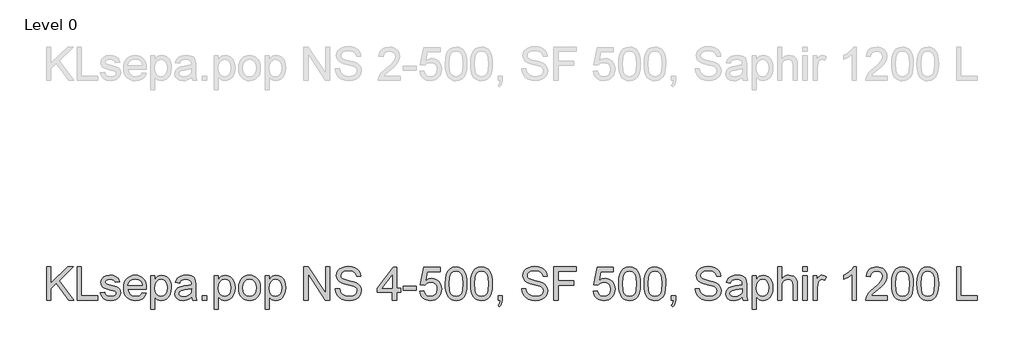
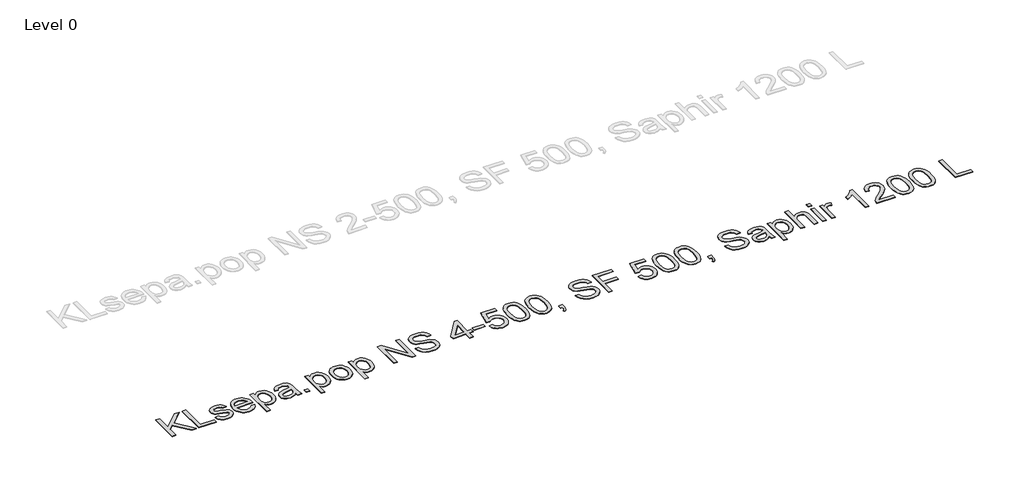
# One storey, part 9 of 15: 1 proxy.
"""IFC4 building model written with IfcOpenShell, lengths in millimetres."""

from ifc_helpers import new_model, si_unit, origin, origin_with_axes, place, context, project, spatial, polyline, outline, extrude, element, save

model = new_model("IFC4")

# Units and contexts
model_context = context("Model", 3, world=origin())
ifc_project = project(units=[si_unit("LENGTHUNIT", "METRE", prefix="MILLI")], contexts=[model_context])

# Site, building, storey
site = spatial("IfcSite", under=ifc_project)
building = spatial("IfcBuilding", under=site)
storey = spatial("IfcBuildingStorey", under=building, Name="Level 0", Elevation=0.0)

# Proxy
placement = place(None, origin())
element("IfcBuildingElementProxy", 1, Name="300mm Arial", ObjectType="300mm Arial", at=placement, inside=storey, context=model_context, shape_type="SweptSolid", body=[
    extrude(outline(polyline([(862.8420262, 199.0232018), (862.8420262, 500.3921323), (900.5131425, 500.3921323), (900.5131425, 352.8714522), (1055.0235805, 500.3921323), (1107.7042822, 500.3921323), (977.9890907, 376.4894763), (1112.4131718, 199.0232018), (1066.354346, 199.0232018), (951.2808579, 351.0320422), (900.5131425, 302.6187717), (900.5131425, 199.0232018), (862.8420262, 199.0232018)])), origin_with_axes(), (0.0, 0.0, 1.0), 5.0),
    extrude(outline(polyline([(1140.666509, 199.0232018), (1140.666509, 500.3921323), (1178.3376253, 500.3921323), (1178.3376253, 236.6943181), (1329.0220905, 236.6943181), (1329.0220905, 199.0232018), (1140.666509, 199.0232018)])), origin_with_axes(), (0.0, 0.0, 1.0), 5.0),
    extrude(outline(polyline([(1352.5665382, 264.9476554), (1390.2376545, 269.6565449), (1396.1789487, 253.5433135), (1407.6752611, 241.6975133), (1424.800168, 234.4134498), (1447.6272458, 231.9854286), (1470.1784121, 234.2111147), (1486.0341261, 240.8881729), (1495.4151169, 250.5634693), (1498.5421139, 261.7838702), (1495.3967228, 271.3855903), (1485.9605497, 278.706442), (1447.1857874, 289.4485962), (1390.4583837, 307.8794842), (1376.1017888, 317.1409134), (1365.6999254, 329.4005809), (1359.3815522, 343.8767374), (1357.2754277, 359.7876337), (1358.9676849, 374.3833519), (1364.0444565, 387.8570299), (1372.0458899, 399.675239), (1382.5121326, 409.3045503), (1406.4612505, 420.4513747), (1438.8716543, 425.0498997), (1463.3909893, 423.2012926), (1484.7097509, 417.6554716), (1501.8530519, 408.9550624), (1513.8460049, 397.642691), (1521.792256, 382.881426), (1526.7954511, 363.8343357), (1489.1243348, 359.1254461), (1484.36946, 370.9804434), (1474.960878, 379.9107789), (1460.8066182, 385.5117822), (1441.8147102, 387.3787834), (1420.1832489, 385.5945557), (1405.7622747, 380.2418726), (1397.6504767, 372.5163507), (1394.9465441, 363.6136065), (1399.4347044, 352.650723), (1413.4877966, 344.3365899), (1445.9349886, 336.3167624), (1501.2276525, 318.5848503), (1515.8325677, 310.1051703), (1526.9058157, 298.4984933), (1533.8863766, 283.7280312), (1536.2132302, 265.7569957), (1533.4817064, 247.178955), (1525.2871349, 229.7045602), (1511.9422156, 214.7041719), (1493.759648, 203.5481504), (1471.7970928, 196.6227718), (1447.112211, 194.3143123), (1409.128395, 198.7656844), (1381.4084866, 212.1198009), (1362.9040223, 234.2295088), (1352.5665382, 264.9476554)])), origin_with_axes(), (0.0, 0.0, 1.0), 5.0),
    extrude(outline(polyline([(1733.5451324, 264.9476554), (1770.4804847, 260.2387658), (1757.1723536, 232.4084929), (1735.9363654, 211.6047661), (1707.2507668, 198.6369257), (1671.5938044, 194.3143123), (1648.2195022, 196.1790141), (1627.3927827, 201.7731197), (1609.1136461, 211.0966291), (1593.3820923, 224.1495421), (1580.7315501, 240.5685754), (1571.6954486, 259.9904455), (1566.2737877, 282.4151523), (1564.4665674, 307.842696), (1566.2921818, 334.1324631), (1571.769025, 357.3044302), (1580.897097, 377.3585975), (1593.6763978, 394.2949649), (1609.3665649, 407.7502488), (1627.2272358, 417.361166), (1647.2584104, 423.1277162), (1669.4600889, 425.0498997), (1690.9466966, 423.1323148), (1710.3777638, 417.3795601), (1727.7532903, 407.7916356), (1743.0732761, 394.3685413), (1755.5789647, 377.4689621), (1764.5115994, 357.451583), (1769.8711802, 334.3164041), (1771.6577071, 308.0634252), (1771.4369779, 297.9098821), (1602.1376837, 297.9098821), (1608.6583921, 269.7117272), (1623.8059333, 248.9815768), (1645.6673208, 236.2344656), (1672.3295684, 231.9854286), (1692.3791372, 233.9535973), (1709.2649207, 239.8581033), (1722.9869192, 250.0668287), (1733.5451324, 264.9476554)]), holes=[polyline([(1602.1376837, 335.5809984), (1733.9865908, 335.5809984), (1728.8914252, 355.4834144), (1718.903429, 369.7204476), (1696.9408739, 382.9641994), (1669.3129361, 387.3787834), (1643.9198813, 383.8563132), (1622.9230165, 373.2889029), (1608.3272983, 356.8169866), (1602.1376837, 335.5809984)])]), origin_with_axes(), (0.0, 0.0, 1.0), 5.0),
    extrude(outline(polyline([(1809.3288234, 114.2631901), (1809.3288234, 420.3410101), (1846.9999397, 420.3410101), (1846.9999397, 383.4056578), (1859.2871984, 401.6250136), (1873.045985, 414.6388392), (1889.08564, 422.4471345), (1908.2155037, 425.0498997), (1933.6913319, 421.4078679), (1955.9665867, 410.4817726), (1974.1031691, 392.9338015), (1987.1629799, 369.426142), (1995.0540487, 341.6694455), (1997.6844049, 311.3743631), (1994.7137578, 279.1570974), (1985.8018165, 250.3427401), (1971.2336895, 226.3936223), (1951.2944854, 208.7720747), (1928.0719344, 197.9287529), (1903.653767, 194.3143123), (1886.3357221, 196.7331364), (1870.8754812, 203.9896088), (1857.6409264, 214.9432952), (1846.9999397, 228.4537614), (1846.9999397, 114.2631901), (1809.3288234, 114.2631901)]), holes=[polyline([(1846.9999397, 307.9162724), (1851.0742328, 274.1447052), (1863.2971121, 250.5266811), (1881.3325269, 236.6207417), (1902.8444266, 231.9854286), (1924.7058142, 236.7862886), (1943.2010815, 251.1888687), (1955.8102368, 275.6714155), (1960.0132886, 310.7121756), (1955.9114044, 344.2998017), (1943.6057517, 368.2489196), (1925.597928, 382.5963174), (1904.389531, 387.3787834), (1883.0983605, 382.2928148), (1864.4007581, 367.034909), (1851.3501443, 342.0833127), (1846.9999397, 307.9162724)])]), origin_with_axes(), (0.0, 0.0, 1.0), 5.0),
    extrude(outline(polyline([(2181.3310969, 227.2765391), (2163.3324703, 211.8438894), (2144.8004148, 201.7455286), (2125.3118661, 196.1721164), (2104.44376, 194.3143123), (2072.9622582, 198.7840785), (2049.7397073, 212.1933772), (2035.4199006, 232.5556457), (2030.6466317, 257.8843211), (2032.4492535, 273.5009117), (2037.8571188, 287.6827627), (2046.1988431, 299.8228685), (2056.8030416, 309.314224), (2083.1801806, 321.675059), (2115.7745254, 327.3404417), (2154.2917703, 333.3001301), (2181.1103677, 340.289888), (2181.3310969, 348.6775975), (2178.7375289, 365.4898046), (2170.9568247, 376.4894763), (2153.5560063, 384.6564566), (2129.3125828, 387.3787834), (2106.8717811, 385.5669645), (2091.2000081, 380.131508), (2080.5130362, 370.0791325), (2073.0266376, 354.4165566), (2035.3555213, 359.1254461), (2041.8946237, 379.7268379), (2051.6526936, 395.9136456), (2065.540239, 408.2928748), (2084.4677676, 417.4715306), (2107.6167422, 423.1553074), (2134.1686252, 425.0498997), (2159.6352563, 423.3760366), (2179.8227808, 418.3544473), (2195.0438983, 410.8036694), (2205.6113086, 401.5422402), (2212.6194606, 390.0919131), (2217.1628033, 375.9744415), (2219.0022132, 343.0122147), (2219.0022132, 296.1440485), (2220.9151996, 230.6978416), (2228.4199923, 199.0232018), (2190.748876, 199.0232018), (2181.3310969, 227.2765391)]), holes=[polyline([(2181.3310969, 302.6187717), (2120.5569913, 291.067277), (2088.1465876, 284.9604359), (2073.468096, 275.027622), (2068.317748, 260.5330714), (2071.1228482, 249.3310647), (2079.5381489, 240.1524089), (2093.3797089, 234.0271737), (2112.4635874, 231.9854286), (2132.6970972, 234.2387058), (2150.5761621, 240.9985375), (2165.0707128, 250.9589425), (2175.1506794, 262.8139398), (2179.6204457, 275.027622), (2181.1103677, 291.9501938), (2181.3310969, 302.6187717)])]), origin_with_axes(), (0.0, 0.0, 1.0), 5.0),
    extrude(outline(polyline([(2280.2177772, 199.0232018), (2280.2177772, 236.6943181), (2317.8888936, 236.6943181), (2317.8888936, 199.0232018), (2280.2177772, 199.0232018)])), origin_with_axes(), (0.0, 0.0, 1.0), 5.0),
    extrude(outline(polyline([(2388.5222366, 114.2631901), (2388.5222366, 420.3410101), (2426.1933529, 420.3410101), (2426.1933529, 383.4056578), (2438.4806116, 401.6250136), (2452.2393982, 414.6388392), (2468.2790532, 422.4471345), (2487.4089169, 425.0498997), (2512.8847451, 421.4078679), (2535.1599999, 410.4817726), (2553.2965823, 392.9338015), (2566.3563931, 369.426142), (2574.2474619, 341.6694455), (2576.8778182, 311.3743631), (2573.907171, 279.1570974), (2564.9952297, 250.3427401), (2550.4271027, 226.3936223), (2530.4878986, 208.7720747), (2507.2653476, 197.9287529), (2482.8471802, 194.3143123), (2465.5291353, 196.7331364), (2450.0688944, 203.9896088), (2436.8343396, 214.9432952), (2426.1933529, 228.4537614), (2426.1933529, 114.2631901), (2388.5222366, 114.2631901)]), holes=[polyline([(2426.1933529, 307.9162724), (2430.267646, 274.1447052), (2442.4905253, 250.5266811), (2460.5259401, 236.6207417), (2482.0378398, 231.9854286), (2503.8992274, 236.7862886), (2522.3944947, 251.1888687), (2535.0036501, 275.6714155), (2539.2067019, 310.7121756), (2535.1048176, 344.2998017), (2522.7991649, 368.2489196), (2504.7913412, 382.5963174), (2483.5829442, 387.3787834), (2462.2917737, 382.2928148), (2443.5941713, 367.034909), (2430.5435575, 342.0833127), (2426.1933529, 307.9162724)])]), origin_with_axes(), (0.0, 0.0, 1.0), 5.0),
    extrude(outline(polyline([(2609.8400449, 309.682106), (2611.8771915, 338.3447119), (2617.9886311, 363.0433894), (2628.1743639, 383.7781383), (2642.4343897, 400.5489588), (2656.7909846, 411.2681204), (2672.6375015, 418.9246644), (2689.9739405, 423.5185909), (2708.8003016, 425.0498997), (2729.5833351, 423.1851978), (2748.3752073, 417.5910922), (2765.1759181, 408.2675829), (2779.9854677, 395.2146698), (2792.0726905, 378.8738115), (2800.7064211, 359.6864662), (2805.8866594, 337.6526339), (2807.6134055, 312.7723147), (2804.559985, 274.7149223), (2795.3997233, 245.7442152), (2780.3993349, 224.0483745), (2759.8255344, 207.8155815), (2735.3889728, 197.6896296), (2708.8003016, 194.3143123), (2687.7137655, 196.1721164), (2668.7471494, 201.7455286), (2651.9004533, 211.034549), (2637.1736772, 224.0391775), (2625.2152131, 240.538685), (2616.673453, 260.3123422), (2611.5483969, 283.3601492), (2609.8400449, 309.682106)]), holes=[polyline([(2647.5111612, 309.7556824), (2651.8705629, 275.6622185), (2664.9487678, 251.3728097), (2684.6304545, 236.8322739), (2708.8003016, 231.9854286), (2732.8597841, 236.859865), (2752.5046827, 251.4831743), (2765.5828876, 276.0944798), (2769.9422892, 310.9329048), (2765.5552964, 344.0330873), (2752.3943181, 367.9914022), (2732.7218284, 382.5319381), (2708.8003016, 387.3787834), (2684.6304545, 382.5503322), (2664.9487678, 368.0649786), (2651.8705629, 343.8307522), (2647.5111612, 309.7556824)])]), origin_with_axes(), (0.0, 0.0, 1.0), 5.0),
    extrude(outline(polyline([(2849.9934114, 114.2631901), (2849.9934114, 420.3410101), (2887.6645277, 420.3410101), (2887.6645277, 383.4056578), (2899.9517863, 401.6250136), (2913.7105729, 414.6388392), (2929.7502279, 422.4471345), (2948.8800917, 425.0498997), (2974.3559198, 421.4078679), (2996.6311747, 410.4817726), (3014.767757, 392.9338015), (3027.8275678, 369.426142), (3035.7186366, 341.6694455), (3038.3489929, 311.3743631), (3035.3783458, 279.1570974), (3026.4664045, 250.3427401), (3011.8982775, 226.3936223), (2991.9590733, 208.7720747), (2968.7365224, 197.9287529), (2944.3183549, 194.3143123), (2927.00031, 196.7331364), (2911.5400692, 203.9896088), (2898.3055144, 214.9432952), (2887.6645277, 228.4537614), (2887.6645277, 114.2631901), (2849.9934114, 114.2631901)]), holes=[polyline([(2887.6645277, 307.9162724), (2891.7388208, 274.1447052), (2903.9617001, 250.5266811), (2921.9971149, 236.6207417), (2943.5090145, 231.9854286), (2965.3704021, 236.7862886), (2983.8656694, 251.1888687), (2996.4748248, 275.6714155), (3000.6778766, 310.7121756), (2996.5759924, 344.2998017), (2984.2703396, 368.2489196), (2966.262516, 382.5963174), (2945.0541189, 387.3787834), (2923.7629485, 382.2928148), (2905.0653461, 367.034909), (2892.0147323, 342.0833127), (2887.6645277, 307.9162724)])]), origin_with_axes(), (0.0, 0.0, 1.0), 5.0),
    extrude(outline(polyline([(3203.1601267, 199.0232018), (3203.1601267, 500.3921323), (3243.4799934, 500.3921323), (3400.9334874, 261.6367174), (3400.9334874, 500.3921323), (3438.6046037, 500.3921323), (3438.6046037, 199.0232018), (3398.284737, 199.0232018), (3240.8312431, 437.8521931), (3240.8312431, 199.0232018), (3203.1601267, 199.0232018)])), origin_with_axes(), (0.0, 0.0, 1.0), 5.0),
    extrude(outline(polyline([(3490.4023886, 302.6187717), (3528.0735049, 302.6187717), (3532.3961183, 281.7138773), (3540.2136107, 264.9108672), (3552.4088989, 251.5751448), (3569.8648995, 241.0721139), (3591.2020553, 234.2570999), (3615.0408085, 231.9854286), (3636.0284764, 233.7052769), (3654.404182, 238.8648219), (3669.2942058, 247.0318022), (3679.8248279, 257.7739565), (3686.0880189, 270.1072003), (3688.1757492, 283.0474495), (3686.6122507, 295.6566049), (3681.9217553, 306.555109), (3672.3936116, 315.8533264), (3656.3171684, 323.6616218), (3601.4659629, 338.0458078), (3565.4595126, 347.5647544), (3542.4209027, 356.6238486), (3523.668118, 369.2973833), (3510.3783809, 384.6564566), (3502.459721, 402.3699747), (3499.8201677, 422.1068437), (3503.0851204, 444.1705664), (3512.8799785, 464.7443669), (3528.9472246, 482.1819735), (3551.0293414, 494.8371141), (3577.5352391, 502.5350449), (3606.8738283, 505.1010218), (3638.6588326, 502.4154832), (3666.4707115, 494.3588675), (3689.3161834, 481.0967216), (3706.2019669, 462.7945924), (3716.8889389, 440.592914), (3721.137976, 415.6321206), (3683.4668596, 415.6321206), (3676.5506781, 438.1097105), (3662.1297039, 454.3333065), (3639.5969317, 464.1557557), (3608.3453562, 467.4299055), (3576.3580168, 464.1925439), (3554.4138557, 454.4804593), (3541.7219269, 440.1882438), (3537.491284, 423.2104897), (3540.4895222, 408.7343332), (3549.484237, 397.090868), (3570.7478163, 386.6798076), (3610.9941066, 376.0480179), (3652.5279839, 365.9496571), (3677.6543241, 357.1388833), (3699.1294356, 343.4720672), (3714.1114298, 326.6046777), (3722.9130066, 306.7206559), (3725.8468655, 284.0039427), (3722.4715482, 260.7813918), (3712.3455963, 238.9383983), (3695.882877, 220.1396283), (3673.4972576, 206.0497479), (3646.5774926, 197.2481712), (3616.5123365, 194.3143123), (3579.6045754, 197.4780974), (3549.2267196, 206.9694529), (3525.0292814, 222.8251669), (3506.6627728, 245.0820276), (3494.8721548, 272.1949307), (3490.4023886, 302.6187717)])), origin_with_axes(), (0.0, 0.0, 1.0), 5.0),
    extrude(outline(polyline([(4008.3802378, 199.0232018), (4008.3802378, 269.6565449), (3871.8224412, 269.6565449), (3871.8224412, 307.3276612), (4017.7980169, 495.6832427), (4046.0513541, 495.6832427), (4046.0513541, 307.3276612), (4083.7224704, 307.3276612), (4083.7224704, 269.6565449), (4046.0513541, 269.6565449), (4046.0513541, 199.0232018), (4008.3802378, 199.0232018)]), holes=[polyline([(4008.3802378, 307.3276612), (4008.3802378, 423.7255245), (3918.1755726, 307.3276612), (4008.3802378, 307.3276612)])]), origin_with_axes(), (0.0, 0.0, 1.0), 5.0),
    extrude(outline(polyline([(4107.2669181, 288.492103), (4107.2669181, 326.1632194), (4224.9891565, 326.1632194), (4224.9891565, 288.492103), (4107.2669181, 288.492103)])), origin_with_axes(), (0.0, 0.0, 1.0), 5.0),
    extrude(outline(polyline([(4257.9513833, 279.074324), (4295.6224996, 283.7832135), (4302.5386811, 261.1676679), (4314.6052106, 244.971663), (4331.7669056, 235.2319872), (4353.9685841, 231.9854286), (4380.9711225, 236.5011801), (4401.2046322, 250.0484346), (4413.8413788, 271.0636935), (4418.0536276, 297.9834585), (4414.1080932, 323.330528), (4402.27149, 342.7179091), (4382.4518475, 355.0235619), (4354.5571952, 359.1254461), (4336.2826571, 357.4883712), (4321.4846039, 352.5771466), (4300.3313892, 335.5809984), (4262.6602729, 340.289888), (4295.6224996, 495.6832427), (4441.5980753, 495.6832427), (4441.5980753, 458.0121264), (4326.0831288, 458.0121264), (4309.9698974, 375.0179483), (4336.8804654, 391.3519089), (4365.0786203, 396.7965624), (4383.4244356, 395.1089038), (4400.2757302, 390.0459278), (4415.6325042, 381.6076346), (4429.4947577, 369.794024), (4440.9703767, 355.3270645), (4449.1672474, 338.9287246), (4454.0853698, 320.5990042), (4455.7247439, 300.3379033), (4449.8202379, 262.666787), (4442.4396054, 245.8729739), (4432.1067198, 230.4403242), (4416.4533409, 214.635194), (4398.1879999, 203.3458153), (4377.3106967, 196.572188), (4353.8214313, 194.3143123), (4316.8216996, 200.1176508), (4301.1430288, 207.3718238), (4287.3451547, 217.5276662), (4275.8649372, 230.07934), (4267.1392361, 244.5210076), (4257.9513833, 279.074324)])), origin_with_axes(), (0.0, 0.0, 1.0), 5.0),
    extrude(outline(polyline([(4488.6869707, 347.2796459), (4491.4552827, 395.5181725), (4499.7602187, 433.9894321), (4513.5190054, 463.282036), (4532.6488691, 483.9845953), (4557.2877657, 496.290248), (4587.573651, 500.3921323), (4610.7870049, 497.9641111), (4631.5723376, 490.6800476), (4648.9547619, 478.8250503), (4661.9593904, 462.6842278), (4671.7818397, 442.3955357), (4679.6177262, 418.0969299), (4684.74968, 387.2408276), (4686.4603313, 347.2796459), (4683.7196104, 299.3170308), (4675.4974478, 260.9377416), (4661.8214347, 231.6175466), (4642.7191621, 210.8322139), (4618.0250831, 198.4437877), (4587.573651, 194.3143123), (4566.8251065, 196.107737), (4548.4310067, 201.4880112), (4532.3913517, 210.4551348), (4518.7061415, 223.0091079), (4505.5727543, 245.7028285), (4496.1917634, 273.9791583), (4490.5631689, 307.8380975), (4488.6869707, 347.2796459)]), holes=[polyline([(4526.358087, 347.3532223), (4530.7726709, 288.0966299), (4536.2909009, 267.8286312), (4544.0164228, 253.8008309), (4563.7348977, 237.4392792), (4587.573651, 231.9854286), (4611.4124043, 237.4576733), (4631.1308792, 253.8744073), (4638.8564011, 267.9252003), (4644.374631, 288.1886004), (4648.789215, 347.3532223), (4644.5217838, 405.2762424), (4639.1874949, 425.4775625), (4631.7194904, 439.8387559), (4612.0378037, 457.0004509), (4587.1321926, 462.721016), (4563.5509567, 457.6810326), (4544.605034, 442.5610826), (4536.6219947, 426.9260978), (4530.9198237, 405.8464595), (4526.358087, 347.3532223)])]), origin_with_axes(), (0.0, 0.0, 1.0), 5.0),
    extrude(outline(polyline([(4719.4225581, 347.2796459), (4722.1908701, 395.5181725), (4730.4958061, 433.9894321), (4744.2545927, 463.282036), (4763.3844565, 483.9845953), (4788.0233531, 496.290248), (4818.3092384, 500.3921323), (4841.5225923, 497.9641111), (4862.307925, 490.6800476), (4879.6903493, 478.8250503), (4892.6949778, 462.6842278), (4902.5174271, 442.3955357), (4910.3533136, 418.0969299), (4915.4852674, 387.2408276), (4917.1959187, 347.2796459), (4914.4551978, 299.3170308), (4906.2330352, 260.9377416), (4892.557022, 231.6175466), (4873.4547494, 210.8322139), (4848.7606705, 198.4437877), (4818.3092384, 194.3143123), (4797.5606938, 196.107737), (4779.1665941, 201.4880112), (4763.1269391, 210.4551348), (4749.4417289, 223.0091079), (4736.3083416, 245.7028285), (4726.9273508, 273.9791583), (4721.2987562, 307.8380975), (4719.4225581, 347.2796459)]), holes=[polyline([(4757.0936744, 347.3532223), (4761.5082583, 288.0966299), (4767.0264882, 267.8286312), (4774.7520101, 253.8008309), (4794.4704851, 237.4392792), (4818.3092384, 231.9854286), (4842.1479917, 237.4576733), (4861.8664666, 253.8744073), (4869.5919885, 267.9252003), (4875.1102184, 288.1886004), (4879.5248024, 347.3532223), (4875.2573712, 405.2762424), (4869.9230823, 425.4775625), (4862.4550778, 439.8387559), (4842.773391, 457.0004509), (4817.86778, 462.721016), (4794.2865441, 457.6810326), (4775.3406213, 442.5610826), (4767.357582, 426.9260978), (4761.6554111, 405.8464595), (4757.0936744, 347.3532223)])]), origin_with_axes(), (0.0, 0.0, 1.0), 5.0),
    extrude(outline(polyline([(4968.9937036, 199.0232018), (4968.9937036, 236.6943181), (5006.6648199, 236.6943181), (5006.6648199, 199.0232018), (5004.9725627, 177.474514), (4999.8957912, 160.5059569), (4991.1401997, 147.4921313), (4978.4114827, 137.8076378), (4968.9937036, 151.9343064), (4977.1606839, 158.7585174), (4982.8260666, 168.1946906), (4987.7556853, 199.0232018), (4968.9937036, 199.0232018)])), origin_with_axes(), (0.0, 0.0, 1.0), 5.0),
    extrude(outline(polyline([(5185.6026224, 302.6187717), (5223.2737387, 302.6187717), (5227.5963521, 281.7138773), (5235.4138445, 264.9108672), (5247.6091326, 251.5751448), (5265.0651333, 241.0721139), (5286.402289, 234.2570999), (5310.2410423, 231.9854286), (5331.2287101, 233.7052769), (5349.6044158, 238.8648219), (5364.4944396, 247.0318022), (5375.0250617, 257.7739565), (5381.2882526, 270.1072003), (5383.375983, 283.0474495), (5381.8124845, 295.6566049), (5377.121989, 306.555109), (5367.5938454, 315.8533264), (5351.5174022, 323.6616218), (5296.6661967, 338.0458078), (5260.6597464, 347.5647544), (5237.6211365, 356.6238486), (5218.8683518, 369.2973833), (5205.5786147, 384.6564566), (5197.6599547, 402.3699747), (5195.0204014, 422.1068437), (5198.2853541, 444.1705664), (5208.0802123, 464.7443669), (5224.1474584, 482.1819735), (5246.2295752, 494.8371141), (5272.7354729, 502.5350449), (5302.074062, 505.1010218), (5333.8590664, 502.4154832), (5361.6709452, 494.3588675), (5384.5164171, 481.0967216), (5401.4022007, 462.7945924), (5412.0891727, 440.592914), (5416.3382097, 415.6321206), (5378.6670934, 415.6321206), (5371.7509119, 438.1097105), (5357.3299377, 454.3333065), (5334.7971655, 464.1557557), (5303.54559, 467.4299055), (5271.5582505, 464.1925439), (5249.6140895, 454.4804593), (5236.9221607, 440.1882438), (5232.6915177, 423.2104897), (5235.689756, 408.7343332), (5244.6844708, 397.090868), (5265.9480501, 386.6798076), (5306.1943404, 376.0480179), (5347.7282176, 365.9496571), (5372.8545579, 357.1388833), (5394.3296694, 343.4720672), (5409.3116636, 326.6046777), (5418.1132404, 306.7206559), (5421.0470993, 284.0039427), (5417.671782, 260.7813918), (5407.54583, 238.9383983), (5391.0831108, 220.1396283), (5368.6974914, 206.0497479), (5341.7777264, 197.2481712), (5311.7125703, 194.3143123), (5274.8048091, 197.4780974), (5244.4269534, 206.9694529), (5220.2295151, 222.8251669), (5201.8630065, 245.0820276), (5190.0723886, 272.1949307), (5185.6026224, 302.6187717)])), origin_with_axes(), (0.0, 0.0, 1.0), 5.0),
    extrude(outline(polyline([(5477.5537737, 199.0232018), (5477.5537737, 500.3921323), (5680.0360239, 500.3921323), (5680.0360239, 462.721016), (5515.22489, 462.721016), (5515.22489, 373.2521147), (5656.4915762, 373.2521147), (5656.4915762, 335.5809984), (5515.22489, 335.5809984), (5515.22489, 199.0232018), (5477.5537737, 199.0232018)])), origin_with_axes(), (0.0, 0.0, 1.0), 5.0),
    extrude(outline(polyline([(5835.4293786, 279.074324), (5873.1004949, 283.7832135), (5880.0166764, 261.1676679), (5892.0832059, 244.971663), (5909.244901, 235.2319872), (5931.4465794, 231.9854286), (5958.4491178, 236.5011801), (5978.6826276, 250.0484346), (5991.3193741, 271.0636935), (5995.5316229, 297.9834585), (5991.5860885, 323.330528), (5979.7494853, 342.7179091), (5959.9298429, 355.0235619), (5932.0351906, 359.1254461), (5913.7606525, 357.4883712), (5898.9625992, 352.5771466), (5877.8093845, 335.5809984), (5840.1382682, 340.289888), (5873.1004949, 495.6832427), (6019.0760706, 495.6832427), (6019.0760706, 458.0121264), (5903.5611241, 458.0121264), (5887.4478928, 375.0179483), (5914.3584607, 391.3519089), (5942.5566156, 396.7965624), (5960.9024309, 395.1089038), (5977.7537255, 390.0459278), (5993.1104996, 381.6076346), (6006.972753, 369.794024), (6018.448372, 355.3270645), (6026.6452427, 338.9287246), (6031.5633651, 320.5990042), (6033.2027392, 300.3379033), (6027.2982332, 262.666787), (6019.9176007, 245.8729739), (6009.5847152, 230.4403242), (5993.9313363, 214.635194), (5975.6659952, 203.3458153), (5954.788692, 196.572188), (5931.2994266, 194.3143123), (5894.2996949, 200.1176508), (5878.6210241, 207.3718238), (5864.82315, 217.5276662), (5853.3429325, 230.07934), (5844.6172315, 244.5210076), (5835.4293786, 279.074324)])), origin_with_axes(), (0.0, 0.0, 1.0), 5.0),
    extrude(outline(polyline([(6066.164966, 347.2796459), (6068.933278, 395.5181725), (6077.2382141, 433.9894321), (6090.9970007, 463.282036), (6110.1268644, 483.9845953), (6134.7657611, 496.290248), (6165.0516463, 500.3921323), (6188.2650002, 497.9641111), (6209.0503329, 490.6800476), (6226.4327572, 478.8250503), (6239.4373857, 462.6842278), (6249.259835, 442.3955357), (6257.0957215, 418.0969299), (6262.2276753, 387.2408276), (6263.9383266, 347.2796459), (6261.1976058, 299.3170308), (6252.9754432, 260.9377416), (6239.29943, 231.6175466), (6220.1971574, 210.8322139), (6195.5030785, 198.4437877), (6165.0516463, 194.3143123), (6144.3031018, 196.107737), (6125.909002, 201.4880112), (6109.869347, 210.4551348), (6096.1841368, 223.0091079), (6083.0507496, 245.7028285), (6073.6697587, 273.9791583), (6068.0411642, 307.8380975), (6066.164966, 347.2796459)]), holes=[polyline([(6103.8360823, 347.3532223), (6108.2506663, 288.0966299), (6113.7688962, 267.8286312), (6121.4944181, 253.8008309), (6141.212893, 237.4392792), (6165.0516463, 231.9854286), (6188.8903996, 237.4576733), (6208.6088745, 253.8744073), (6216.3343964, 267.9252003), (6221.8526264, 288.1886004), (6226.2672103, 347.3532223), (6221.9997792, 405.2762424), (6216.6654902, 425.4775625), (6209.1974857, 439.8387559), (6189.515799, 457.0004509), (6164.6101879, 462.721016), (6141.028952, 457.6810326), (6122.0830293, 442.5610826), (6114.09999, 426.9260978), (6108.3978191, 405.8464595), (6103.8360823, 347.3532223)])]), origin_with_axes(), (0.0, 0.0, 1.0), 5.0),
    extrude(outline(polyline([(6296.9005534, 347.2796459), (6299.6688654, 395.5181725), (6307.9738014, 433.9894321), (6321.7325881, 463.282036), (6340.8624518, 483.9845953), (6365.5013484, 496.290248), (6395.7872337, 500.3921323), (6419.0005876, 497.9641111), (6439.7859203, 490.6800476), (6457.1683446, 478.8250503), (6470.1729731, 462.6842278), (6479.9954224, 442.3955357), (6487.8313089, 418.0969299), (6492.9632627, 387.2408276), (6494.673914, 347.2796459), (6491.9331931, 299.3170308), (6483.7110305, 260.9377416), (6470.0350174, 231.6175466), (6450.9327448, 210.8322139), (6426.2386658, 198.4437877), (6395.7872337, 194.3143123), (6375.0386892, 196.107737), (6356.6445894, 201.4880112), (6340.6049344, 210.4551348), (6326.9197242, 223.0091079), (6313.786337, 245.7028285), (6304.4053461, 273.9791583), (6298.7767516, 307.8380975), (6296.9005534, 347.2796459)]), holes=[polyline([(6334.5716697, 347.3532223), (6338.9862536, 288.0966299), (6344.5044836, 267.8286312), (6352.2300055, 253.8008309), (6371.9484804, 237.4392792), (6395.7872337, 231.9854286), (6419.625987, 237.4576733), (6439.3444619, 253.8744073), (6447.0699838, 267.9252003), (6452.5882137, 288.1886004), (6457.0027977, 347.3532223), (6452.7353665, 405.2762424), (6447.4010776, 425.4775625), (6439.9330731, 439.8387559), (6420.2513864, 457.0004509), (6395.3457753, 462.721016), (6371.7645394, 457.6810326), (6352.8186167, 442.5610826), (6344.8355774, 426.9260978), (6339.1334064, 405.8464595), (6334.5716697, 347.3532223)])]), origin_with_axes(), (0.0, 0.0, 1.0), 5.0),
    extrude(outline(polyline([(6546.4716989, 199.0232018), (6546.4716989, 236.6943181), (6584.1428152, 236.6943181), (6584.1428152, 199.0232018), (6582.450558, 177.474514), (6577.3737865, 160.5059569), (6568.618195, 147.4921313), (6555.889478, 137.8076378), (6546.4716989, 151.9343064), (6554.6386792, 158.7585174), (6560.3040619, 168.1946906), (6565.2336807, 199.0232018), (6546.4716989, 199.0232018)])), origin_with_axes(), (0.0, 0.0, 1.0), 5.0),
    extrude(outline(polyline([(6763.0806177, 302.6187717), (6800.751734, 302.6187717), (6805.0743474, 281.7138773), (6812.8918398, 264.9108672), (6825.087128, 251.5751448), (6842.5431286, 241.0721139), (6863.8802844, 234.2570999), (6887.7190376, 231.9854286), (6908.7067055, 233.7052769), (6927.0824111, 238.8648219), (6941.9724349, 247.0318022), (6952.503057, 257.7739565), (6958.766248, 270.1072003), (6960.8539783, 283.0474495), (6959.2904798, 295.6566049), (6954.5999844, 306.555109), (6945.0718407, 315.8533264), (6928.9953975, 323.6616218), (6874.144192, 338.0458078), (6838.1377417, 347.5647544), (6815.0991318, 356.6238486), (6796.3463471, 369.2973833), (6783.05661, 384.6564566), (6775.1379501, 402.3699747), (6772.4983967, 422.1068437), (6775.7633495, 444.1705664), (6785.5582076, 464.7443669), (6801.6254537, 482.1819735), (6823.7075705, 494.8371141), (6850.2134682, 502.5350449), (6879.5520573, 505.1010218), (6911.3370617, 502.4154832), (6939.1489406, 494.3588675), (6961.9944125, 481.0967216), (6978.880196, 462.7945924), (6989.567168, 440.592914), (6993.816205, 415.6321206), (6956.1450887, 415.6321206), (6949.2289072, 438.1097105), (6934.807933, 454.3333065), (6912.2751608, 464.1557557), (6881.0235853, 467.4299055), (6849.0362458, 464.1925439), (6827.0920848, 454.4804593), (6814.400156, 440.1882438), (6810.1695131, 423.2104897), (6813.1677513, 408.7343332), (6822.1624661, 397.090868), (6843.4260454, 386.6798076), (6883.6723357, 376.0480179), (6925.2062129, 365.9496571), (6950.3325532, 357.1388833), (6971.8076647, 343.4720672), (6986.7896589, 326.6046777), (6995.5912357, 306.7206559), (6998.5250946, 284.0039427), (6995.1497773, 260.7813918), (6985.0238254, 238.9383983), (6968.5611061, 220.1396283), (6946.1754867, 206.0497479), (6919.2557217, 197.2481712), (6889.1905656, 194.3143123), (6852.2828045, 197.4780974), (6821.9049487, 206.9694529), (6797.7075105, 222.8251669), (6779.3410019, 245.0820276), (6767.5503839, 272.1949307), (6763.0806177, 302.6187717)])), origin_with_axes(), (0.0, 0.0, 1.0), 5.0),
    extrude(outline(polyline([(7191.5895657, 227.2765391), (7173.590939, 211.8438894), (7155.0588835, 201.7455286), (7135.5703348, 196.1721164), (7114.7022287, 194.3143123), (7083.2207269, 198.7840785), (7059.998176, 212.1933772), (7045.6783693, 232.5556457), (7040.9051004, 257.8843211), (7042.7077222, 273.5009117), (7048.1155875, 287.6827627), (7056.4573118, 299.8228685), (7067.0615103, 309.314224), (7093.4386493, 321.675059), (7126.0329941, 327.3404417), (7164.550239, 333.3001301), (7191.3688365, 340.289888), (7191.5895657, 348.6775975), (7188.9959976, 365.4898046), (7181.2152934, 376.4894763), (7163.814475, 384.6564566), (7139.5710515, 387.3787834), (7117.1302498, 385.5669645), (7101.4584768, 380.131508), (7090.7715049, 370.0791325), (7083.2851063, 354.4165566), (7045.61399, 359.1254461), (7052.1530924, 379.7268379), (7061.9111624, 395.9136456), (7075.7987077, 408.2928748), (7094.7262363, 417.4715306), (7117.8752109, 423.1553074), (7144.4270939, 425.0498997), (7169.893725, 423.3760366), (7190.0812495, 418.3544473), (7205.302367, 410.8036694), (7215.8697773, 401.5422402), (7222.8779293, 390.0919131), (7227.421272, 375.9744415), (7229.260682, 343.0122147), (7229.260682, 296.1440485), (7231.1736683, 230.6978416), (7238.678461, 199.0232018), (7201.0073447, 199.0232018), (7191.5895657, 227.2765391)]), holes=[polyline([(7191.5895657, 302.6187717), (7130.8154601, 291.067277), (7098.4050563, 284.9604359), (7083.7265647, 275.027622), (7078.5762167, 260.5330714), (7081.3813169, 249.3310647), (7089.7966176, 240.1524089), (7103.6381777, 234.0271737), (7122.7220562, 231.9854286), (7142.9555659, 234.2387058), (7160.8346309, 240.9985375), (7175.3291815, 250.9589425), (7185.4091481, 262.8139398), (7189.8789144, 275.027622), (7191.3688365, 291.9501938), (7191.5895657, 302.6187717)])]), origin_with_axes(), (0.0, 0.0, 1.0), 5.0),
    extrude(outline(polyline([(7281.0584669, 114.2631901), (7281.0584669, 420.3410101), (7318.7295832, 420.3410101), (7318.7295832, 383.4056578), (7331.0168418, 401.6250136), (7344.7756284, 414.6388392), (7360.8152834, 422.4471345), (7379.9451472, 425.0498997), (7405.4209754, 421.4078679), (7427.6962302, 410.4817726), (7445.8328125, 392.9338015), (7458.8926233, 369.426142), (7466.7836921, 341.6694455), (7469.4140484, 311.3743631), (7466.4434013, 279.1570974), (7457.53146, 250.3427401), (7442.963333, 226.3936223), (7423.0241288, 208.7720747), (7399.8015779, 197.9287529), (7375.3834104, 194.3143123), (7358.0653655, 196.7331364), (7342.6051247, 203.9896088), (7329.3705699, 214.9432952), (7318.7295832, 228.4537614), (7318.7295832, 114.2631901), (7281.0584669, 114.2631901)]), holes=[polyline([(7318.7295832, 307.9162724), (7322.8038763, 274.1447052), (7335.0267556, 250.5266811), (7353.0621704, 236.6207417), (7374.5740701, 231.9854286), (7396.4354576, 236.7862886), (7414.9307249, 251.1888687), (7427.5398803, 275.6714155), (7431.7429321, 310.7121756), (7427.6410479, 344.2998017), (7415.3353951, 368.2489196), (7397.3275715, 382.5963174), (7376.1191744, 387.3787834), (7354.828004, 382.2928148), (7336.1304016, 367.034909), (7323.0797878, 342.0833127), (7318.7295832, 307.9162724)])]), origin_with_axes(), (0.0, 0.0, 1.0), 5.0),
    extrude(outline(polyline([(7511.7940543, 199.0232018), (7511.7940543, 500.3921323), (7549.4651706, 500.3921323), (7549.4651706, 389.5860753), (7563.3021321, 405.1014985), (7578.8405479, 416.1839436), (7596.0804179, 422.8334106), (7615.0217421, 425.0498997), (7637.7752435, 422.6310755), (7657.3281715, 415.3746032), (7672.724033, 403.8506997), (7683.0063348, 388.6295821), (7688.8004762, 367.7154907), (7690.7318567, 339.1126656), (7690.7318567, 199.0232018), (7653.0607404, 199.0232018), (7653.0607404, 335.2131164), (7650.0625021, 358.7943523), (7641.0677874, 374.9443719), (7626.5732368, 384.2701805), (7607.075491, 387.3787834), (7591.1553977, 385.281856), (7576.2101916, 378.9910739), (7563.8309625, 369.1134423), (7555.6087999, 356.2559666), (7551.0010779, 339.1678479), (7549.4651706, 316.5982875), (7549.4651706, 199.0232018), (7511.7940543, 199.0232018)])), origin_with_axes(), (0.0, 0.0, 1.0), 5.0),
    extrude(outline(polyline([(7742.5296416, 462.721016), (7742.5296416, 500.3921323), (7780.2007579, 500.3921323), (7780.2007579, 462.721016), (7742.5296416, 462.721016)])), origin_with_axes(), (0.0, 0.0, 1.0), 5.0),
    extrude(outline(polyline([(7742.5296416, 199.0232018), (7742.5296416, 420.3410101), (7780.2007579, 420.3410101), (7780.2007579, 199.0232018), (7742.5296416, 199.0232018)])), origin_with_axes(), (0.0, 0.0, 1.0), 5.0),
    extrude(outline(polyline([(7836.7074324, 199.0232018), (7836.7074324, 420.3410101), (7869.6696592, 420.3410101), (7869.6696592, 387.5995125), (7881.8465532, 406.5822235), (7893.0669541, 417.7658362), (7904.3241431, 423.2288838), (7916.6114017, 425.0498997), (7935.3733835, 422.1436319), (7954.4296709, 413.4248286), (7941.8481066, 379.6532615), (7928.6043548, 385.4474029), (7915.360603, 387.3787834), (7904.112611, 385.5209793), (7894.0602354, 379.947567), (7885.9392404, 371.081611), (7880.4853898, 359.3461753), (7875.905259, 338.3033252), (7874.3785487, 315.3474887), (7874.3785487, 199.0232018), (7836.7074324, 199.0232018)])), origin_with_axes(), (0.0, 0.0, 1.0), 5.0),
    extrude(outline(polyline([(8227.5452641, 199.0232018), (8189.8741478, 199.0232018), (8189.8741478, 433.8790675), (8154.1895942, 408.4584217), (8114.5319152, 389.4389225), (8114.5319152, 425.0498997), (8144.1188246, 441.1447369), (8169.7510026, 460.2929948), (8189.9569212, 480.6552632), (8203.2650524, 500.3921323), (8227.5452641, 500.3921323), (8227.5452641, 199.0232018)])), origin_with_axes(), (0.0, 0.0, 1.0), 5.0),
    extrude(outline(polyline([(8510.0786364, 236.6943181), (8510.0786364, 199.0232018), (8312.3052758, 199.0232018), (8316.3519777, 224.9956707), (8325.6409981, 245.2935598), (8339.2342378, 264.9844436), (8358.8975304, 285.5950323), (8386.3967096, 308.6520364), (8427.0476701, 344.7596542), (8451.4382463, 371.4127048), (8463.6335345, 393.0441661), (8467.6986305, 414.0870162), (8463.8634607, 432.9501655), (8452.3579513, 448.6311355), (8434.6720244, 459.1985459), (8412.295602, 462.721016), (8388.7971396, 459.2813193), (8370.5409956, 448.9622293), (8358.7595747, 432.5730865), (8354.6852816, 410.923231), (8317.0141653, 415.6321206), (8326.1468358, 452.0708322), (8334.6931944, 466.6067695), (8345.8929019, 478.6870946), (8359.4884409, 488.1830486), (8375.222294, 494.9658728), (8413.1049424, 500.3921323), (8433.2947662, 498.8838161), (8451.2635024, 494.3588675), (8467.011151, 486.8172866), (8480.5377122, 476.2590734), (8491.4017273, 463.465977), (8499.1617382, 449.2197467), (8503.8177447, 433.5203826), (8505.3697468, 416.3678846), (8503.6958838, 398.3508639), (8498.6742945, 380.6465428), (8489.7623532, 362.6387192), (8476.4174338, 343.7111905), (8455.1446574, 321.114039), (8422.4491451, 292.0973466), (8379.1126461, 255.8609701), (8362.1164979, 236.6943181), (8510.0786364, 236.6943181)])), origin_with_axes(), (0.0, 0.0, 1.0), 5.0),
    extrude(outline(polyline([(8547.7497527, 347.2796459), (8550.5180647, 395.5181725), (8558.8230007, 433.9894321), (8572.5817873, 463.282036), (8591.7116511, 483.9845953), (8616.3505477, 496.290248), (8646.636433, 500.3921323), (8669.8497869, 497.9641111), (8690.6351196, 490.6800476), (8708.0175439, 478.8250503), (8721.0221724, 462.6842278), (8730.8446217, 442.3955357), (8738.6805082, 418.0969299), (8743.812462, 387.2408276), (8745.5231133, 347.2796459), (8742.7823924, 299.3170308), (8734.5602298, 260.9377416), (8720.8842167, 231.6175466), (8701.7819441, 210.8322139), (8677.0878651, 198.4437877), (8646.636433, 194.3143123), (8625.8878884, 196.107737), (8607.4937887, 201.4880112), (8591.4541337, 210.4551348), (8577.7689235, 223.0091079), (8564.6355363, 245.7028285), (8555.2545454, 273.9791583), (8549.6259508, 307.8380975), (8547.7497527, 347.2796459)]), holes=[polyline([(8585.420869, 347.3532223), (8589.8354529, 288.0966299), (8595.3536828, 267.8286312), (8603.0792047, 253.8008309), (8622.7976797, 237.4392792), (8646.636433, 231.9854286), (8670.4751863, 237.4576733), (8690.1936612, 253.8744073), (8697.9191831, 267.9252003), (8703.437413, 288.1886004), (8707.851997, 347.3532223), (8703.5845658, 405.2762424), (8698.2502769, 425.4775625), (8690.7822724, 439.8387559), (8671.1005857, 457.0004509), (8646.1949746, 462.721016), (8622.6137387, 457.6810326), (8603.6678159, 442.5610826), (8595.6847766, 426.9260978), (8589.9826057, 405.8464595), (8585.420869, 347.3532223)])]), origin_with_axes(), (0.0, 0.0, 1.0), 5.0),
    extrude(outline(polyline([(8778.48534, 347.2796459), (8781.2536521, 395.5181725), (8789.5585881, 433.9894321), (8803.3173747, 463.282036), (8822.4472385, 483.9845953), (8847.0861351, 496.290248), (8877.3720204, 500.3921323), (8900.5853742, 497.9641111), (8921.370707, 490.6800476), (8938.7531312, 478.8250503), (8951.7577598, 462.6842278), (8961.580209, 442.3955357), (8969.4160955, 418.0969299), (8974.5480494, 387.2408276), (8976.2587007, 347.2796459), (8973.5179798, 299.3170308), (8965.2958172, 260.9377416), (8951.619804, 231.6175466), (8932.5175314, 210.8322139), (8907.8234525, 198.4437877), (8877.3720204, 194.3143123), (8856.6234758, 196.107737), (8838.2293761, 201.4880112), (8822.1897211, 210.4551348), (8808.5045109, 223.0091079), (8795.3711236, 245.7028285), (8785.9901328, 273.9791583), (8780.3615382, 307.8380975), (8778.48534, 347.2796459)]), holes=[polyline([(8816.1564564, 347.3532223), (8820.5710403, 288.0966299), (8826.0892702, 267.8286312), (8833.8147921, 253.8008309), (8853.5332671, 237.4392792), (8877.3720204, 231.9854286), (8901.2107736, 237.4576733), (8920.9292486, 253.8744073), (8928.6547705, 267.9252003), (8934.1730004, 288.1886004), (8938.5875843, 347.3532223), (8934.3201532, 405.2762424), (8928.9858643, 425.4775625), (8921.5178598, 439.8387559), (8901.836173, 457.0004509), (8876.930562, 462.721016), (8853.3493261, 457.6810326), (8834.4034033, 442.5610826), (8826.420364, 426.9260978), (8820.7181931, 405.8464595), (8816.1564564, 347.3532223)])]), origin_with_axes(), (0.0, 0.0, 1.0), 5.0),
    extrude(outline(polyline([(9141.0698345, 199.0232018), (9141.0698345, 500.3921323), (9178.7409508, 500.3921323), (9178.7409508, 236.6943181), (9329.425416, 236.6943181), (9329.425416, 199.0232018), (9141.0698345, 199.0232018)])), origin_with_axes(), (0.0, 0.0, 1.0), 5.0),
])

save(model, "model.ifc")
